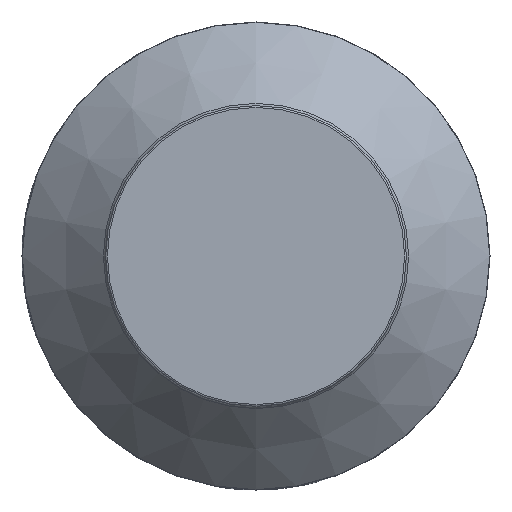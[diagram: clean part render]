
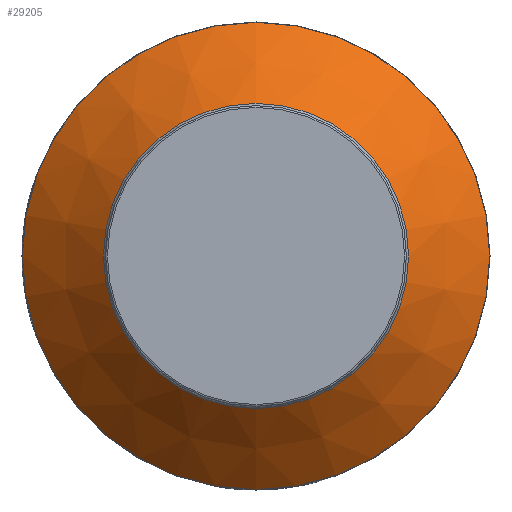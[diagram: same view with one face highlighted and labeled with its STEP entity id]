
A CAD part, left-side view. The second image highlights one B-rep face of the part: STEP entity #29205.
In plain terms, the highlighted conical face has half-angle 45 degrees and reference radius 40 mm.
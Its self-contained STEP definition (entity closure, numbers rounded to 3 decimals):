
#2824 = AXIS2_PLACEMENT_3D ( 'NONE', #48384, #7941, #24081 ) ;
#2931 = CONICAL_SURFACE ( 'NONE', #17151, 40., 0.785 ) ;
#4002 = FACE_OUTER_BOUND ( 'NONE', #7732, .T. ) ;
#7732 = EDGE_LOOP ( 'NONE', ( #43093 ) ) ;
#7941 = DIRECTION ( 'NONE',  ( -1., 0., 0. ) ) ;
#11802 = AXIS2_PLACEMENT_3D ( 'NONE', #13796, #26797, #30166 ) ;
#12088 = CARTESIAN_POINT ( 'NONE',  ( 52.3, 0., 0. ) ) ;
#13796 = CARTESIAN_POINT ( 'NONE',  ( 38.381, 0., 0. ) ) ;
#16002 = CIRCLE ( 'NONE', #11802, 26.081 ) ;
#17151 = AXIS2_PLACEMENT_3D ( 'NONE', #12088, #49423, #17324 ) ;
#17324 = DIRECTION ( 'NONE',  ( 0., 0., -1. ) ) ;
#17814 = ORIENTED_EDGE ( 'NONE', *, *, #48046, .T. ) ;
#19570 = CARTESIAN_POINT ( 'NONE',  ( 38.381, 0., -26.081 ) ) ;
#19937 = FACE_BOUND ( 'NONE', #25742, .T. ) ;
#24081 = DIRECTION ( 'NONE',  ( 0., 0., 1. ) ) ;
#25742 = EDGE_LOOP ( 'NONE', ( #17814 ) ) ;
#26797 = DIRECTION ( 'NONE',  ( 1., 0., 0. ) ) ;
#27617 = VERTEX_POINT ( 'NONE', #19570 ) ;
#28363 = CARTESIAN_POINT ( 'NONE',  ( 52.241, 0., 39.941 ) ) ;
#29205 = ADVANCED_FACE ( 'NONE', ( #4002, #19937 ), #2931, .T. ) ;
#29431 = CIRCLE ( 'NONE', #2824, 39.941 ) ;
#30166 = DIRECTION ( 'NONE',  ( 0., 0., -1. ) ) ;
#39903 = EDGE_CURVE ( 'NONE', #51185, #51185, #29431, .T. ) ;
#43093 = ORIENTED_EDGE ( 'NONE', *, *, #39903, .T. ) ;
#48046 = EDGE_CURVE ( 'NONE', #27617, #27617, #16002, .T. ) ;
#48384 = CARTESIAN_POINT ( 'NONE',  ( 52.241, 0., 0. ) ) ;
#49423 = DIRECTION ( 'NONE',  ( 1., 0., 0. ) ) ;
#51185 = VERTEX_POINT ( 'NONE', #28363 ) ;
